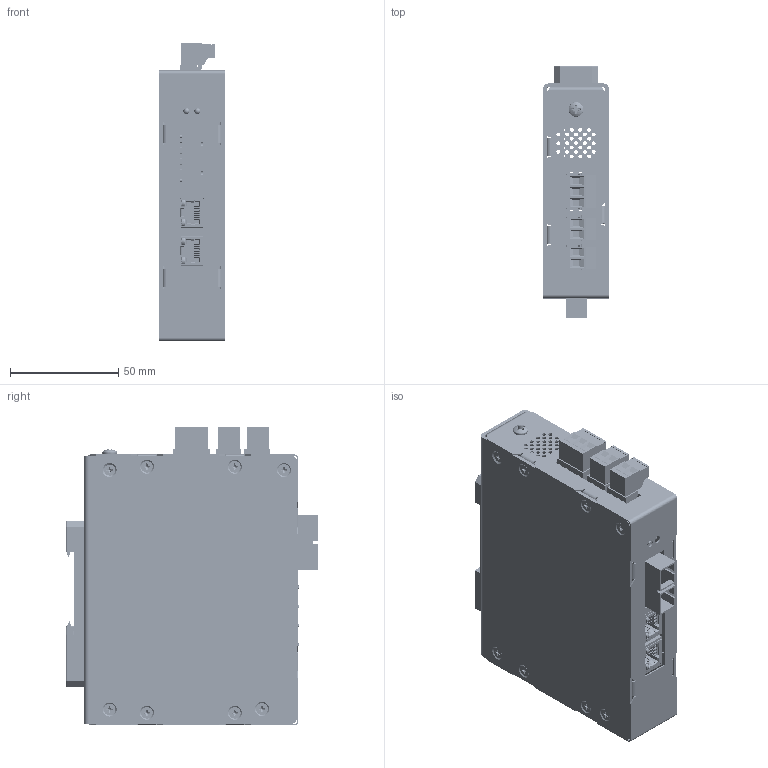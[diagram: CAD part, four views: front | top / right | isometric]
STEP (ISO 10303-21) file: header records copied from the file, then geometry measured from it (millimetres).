
FILE_DESCRIPTION(/* description */ ('STEP AP242','CAx-IF Rec.Pracs.---Representation and Presentation of Product Manufacturing Information (PMI)---4.0---2014-10-13','CAx-IF Rec.Pracs.---3D Tessellated Geometry---0.4---2014-09-14','2;1'),/* implementation_level */ '2;1');
FILE_NAME(/* name */ '618dbab3846b426cb829927f',/* time_stamp */ '2021-11-12T00:52:08+00:00',/* author */ (''),/* organization */ (''),/* preprocessor_version */ 'ST-DEVELOPER v18.1',/* originating_system */ ' ',/* authorisation */ ' ');
FILE_SCHEMA (('AP242_MANAGED_MODEL_BASED_3D_ENGINEERING_MIM_LF { 1 0 10303 442 1 1 4 }'));
Products named in the file (35): CD-387 - 4D-2EM-XX-1-DIN - Rev A; 96640A334_Black-Oxide 18-8 Stainless Steel Phillips Flat Head Screws; SMTSO-440-8ET-PennEngineering-3D-09-30-2021; 96640A115_Black-Oxide 18-8 Stainless Steel Phillips Flat Head Screws; 91772A144_Passivated 18-8 Stainless Steel Pan Head Phillips Screw; DINM12-RC-Assy <1>; spring^DINM12-RC-Assy; Spring clip; DINM12-RC; 4D-2EM-XX-1 Front Cover <1>; PRODUCT_NAME_1; Part 1; PCB-4D-2EM-IO-XX-1 <1>; C-796638-2; C-796634-3; C-796634-2; M-RJHSE-338X Amphenol RJ45 v4 <1>; Part 7; LEDs; Part 6; Plastic Housing; Shield; PIN ARRAY; C-796638-3; M-RJHSE-338X Amphenol RJ45 v4 <2>; H-105 Rear Housing <1>; 95185A130_Zinc-Plated Steel Press-Fit Nut for Sheet Metal
Assembly tree (82 placements, depth 4):
  CD-387 - 4D-2EM-XX-1-DIN - Rev A
    96640A334_Black-Oxide 18-8 Stainless Steel Phillips Flat Head Screws  x14
    SMTSO-440-8ET-PennEngineering-3D-09-30-2021  x4
    96640A115_Black-Oxide 18-8 Stainless Steel Phillips Flat Head Screws  x3
    91772A144_Passivated 18-8 Stainless Steel Pan Head Phillips Screw
    DINM12-RC-Assy <1>
      spring^DINM12-RC-Assy
      Spring clip
      DINM12-RC
      spring^DINM12-RC-Assy
    4D-2EM-XX-1 Front Cover <1>
      PRODUCT_NAME_1  x10
      PRODUCT_NAME_1
      Part 1
    PCB-4D-2EM-IO-XX-1 <1>
      C-796638-2  x2
      Part 1  x2
      Part 1  x4
      C-796634-3
      Part 1
      C-796634-2  x2
      M-RJHSE-338X Amphenol RJ45 v4 <1>
        Part 7  x2
        LEDs
        Part 6  x2
        Plastic Housing  x2
        Shield
        PIN ARRAY
        LEDs
      Part 1
      C-796638-3
      M-RJHSE-338X Amphenol RJ45 v4 <2>
        Part 6  x2
        Plastic Housing  x2
        Part 7  x2
        LEDs
        Shield
        LEDs
        PIN ARRAY
    H-105 Rear Housing <1>
      Part 1
      95185A130_Zinc-Plated Steel Press-Fit Nut for Sheet Metal  x3
Bounding box: 30.48 x 116.3 x 138 mm (x, y, z)
Volume: 93582 mm3; surface area: 136785 mm2
Topology: 75 solids, 76 shells, 7672 faces, 22532 edges, 15010 vertices
Faces by surface type: plane 5630, cylinder 1596, cone 222, torus 101, sphere 65, bspline 58
Full cylindrical faces by diameter (mm): 0.45 x9, 0.5 x2, 0.9 x4, 1.3 x4, 1.494 x4, 1.8 x4, 1.905 x143, 2.156 x14, 2.647 x1, 2.845 x112, 2.9 x4, 3.251 x14, 3.505 x24, 3.556 x2, 4 x10, 4.089 x4, 4.191 x10, 4.216 x14, 4.724 x1, 4.75 x1, 4.763 x3, 4.826 x3, 4.889 x10, 5.41 x8, 5.563 x13, 5.588 x10, 6.401 x1, 6.858 x1, 7.112 x3, 7.5 x1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
Entity records: 109970 total; most frequent: CARTESIAN_POINT 26212, ORIENTED_EDGE 16786, DIRECTION 16081, EDGE_CURVE 8395, LINE 6217, VECTOR 6217, VERTEX_POINT 5683, AXIS2_PLACEMENT_3D 4932
